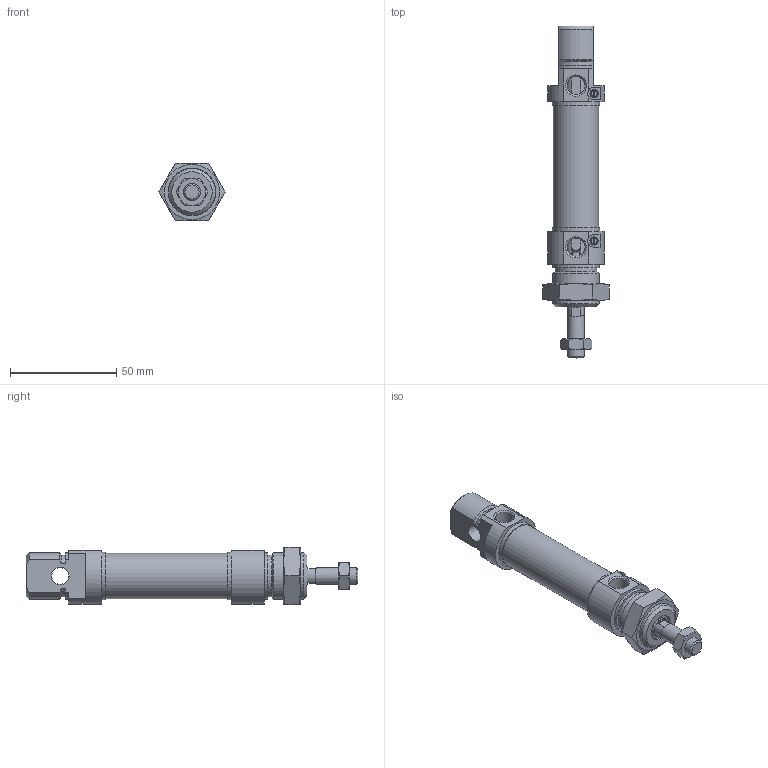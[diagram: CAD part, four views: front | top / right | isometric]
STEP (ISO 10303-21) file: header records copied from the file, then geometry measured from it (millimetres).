
FILE_DESCRIPTION(/* description */ ('Unknown'),/* implementation_level */ '2;1');
FILE_NAME(/* name */ 'RDM 20_25',/* time_stamp */ '2024-08-28T10:47:03+02:00',/* author */ ('Unknown'),/* organization */ ('Unknown'),/* preprocessor_version */ 'ST-DEVELOPER v16.7',/* originating_system */ 'Solid Edge',/* authorisation */ 'Unknown');
FILE_SCHEMA (('AUTOMOTIVE_DESIGN {1 0 10303 214 3 1 1}'));
Length unit declared in the file: millimetre
Products named in the file (7): RDM 20_25; Kit_2; Profilrohr; Kolbenstange; Kit_1; Mutter_1; Mutter_2
Assembly tree (6 placements, depth 2):
  RDM 20_25
    Kit_2
    Profilrohr
    Kolbenstange
    Kit_1
    Mutter_1
    Mutter_2
Bounding box: 31.18 x 156 x 27 mm (x, y, z)
Volume: 46773.3 mm3; surface area: 25703.8 mm2
Topology: 6 solids, 10 shells, 201 faces, 445 edges, 282 vertices
Faces by surface type: plane 77, cone 58, cylinder 55, torus 9, bspline 2
Full cylindrical faces by diameter (mm): 1.75 x2, 1.8 x1, 3.4 x2, 3.5 x2, 6 x1, 6.647 x1, 8 x4, 8.5 x2, 8.56 x2, 8.566 x2, 9.1 x1, 9.5 x1, 12 x2, 12.1 x1, 14.1 x1, 14.2 x1, 19.7 x1, 20 x2, 20.376 x1, 21.27 x1, 22 x2, 22.2 x2
Entity records: 6574 total; most frequent: CARTESIAN_POINT 1153, DIRECTION 844, ORIENTED_EDGE 670, AXIS2_PLACEMENT_3D 375, EDGE_CURVE 335, FACE_BOUND 318, EDGE_LOOP 313, VERTEX_POINT 259
